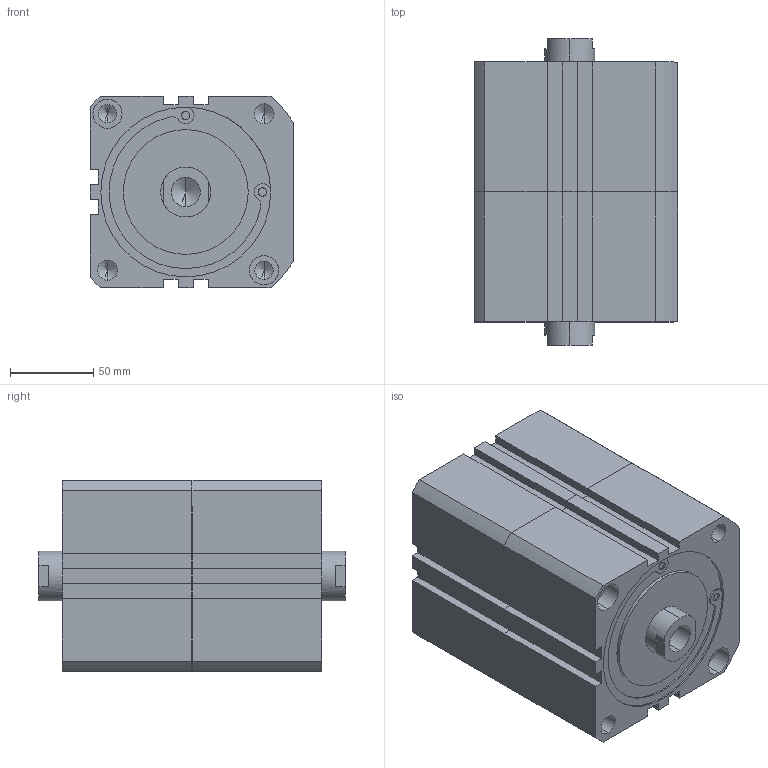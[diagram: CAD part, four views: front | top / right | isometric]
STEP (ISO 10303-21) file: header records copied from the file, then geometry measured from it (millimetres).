
FILE_DESCRIPTION (( 'STEP AP203' ), '1' );
FILE_NAME ('XGD7-100-10-10(L).STEP', '2016-08-05T01:45:45', ( '' ), ( '' ), 'SwSTEP 2.0', 'SolidWorks 2014', '' );
FILE_SCHEMA (( 'CONFIG_CONTROL_DESIGN' ));
Length unit declared in the file: millimetre
Products named in the file (2): XGD7(L)-100-10; XGD7-100-10-10(L)
Assembly tree (2 placements, depth 2):
  XGD7-100-10-10(L)
    XGD7(L)-100-10  x2
Bounding box: 122.5 x 184 x 115 mm (x, y, z)
Volume: 2024442 mm3; surface area: 166771.4 mm2
Topology: 2 solids, 2 shells, 222 faces, 558 edges, 348 vertices
Faces by surface type: cylinder 94, plane 92, cone 36
Entity records: 3478 total; most frequent: DIRECTION 604, CARTESIAN_POINT 555, ORIENTED_EDGE 530, EDGE_CURVE 265, AXIS2_PLACEMENT_3D 223, VERTEX_POINT 174, LINE 158, VECTOR 158
